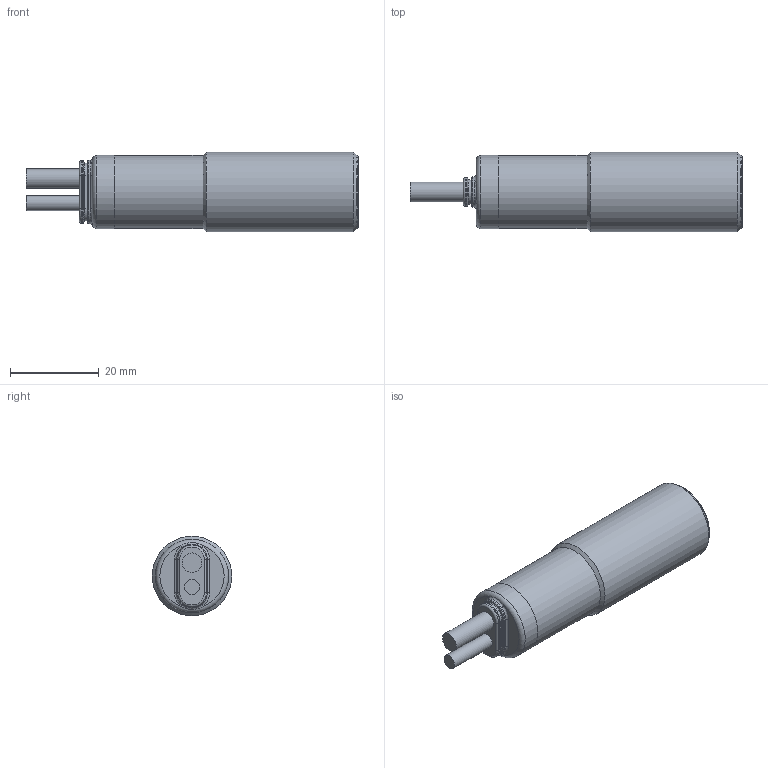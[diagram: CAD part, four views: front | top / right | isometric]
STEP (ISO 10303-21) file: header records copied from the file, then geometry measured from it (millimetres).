
FILE_DESCRIPTION((''),'2;1');
FILE_NAME('J:\Projekte\Kunststoff-Blechteile\Zeichnungen\Bibliothek Inventor\3D Solids\dbk+4\STP\dbk+4_Empf_XXX_M18.stp','2010-01-28T13:46:39',('Oliver Liedtke'),(''),'Autodesk Inventor 2009','Autodesk Inventor 2009','');
FILE_SCHEMA(('AUTOMOTIVE_DESIGN { 1 0 10303 214 1 1 1 1 }'));
Length unit declared in the file: millimetre
Products named in the file (1): dbk+4_Empf_XXX_M18
Bounding box: 75 x 18 x 18 mm (x, y, z)
Volume: 14695.6 mm3; surface area: 4118.7 mm2
Topology: 1 solids, 1 shells, 64 faces, 130 edges, 75 vertices
Faces by surface type: cylinder 22, plane 17, bspline 10, torus 9, cone 6
Full cylindrical faces by diameter (mm): 3.4 x1, 4.4 x1, 10 x1, 12 x1, 16.5 x2, 16.52 x1, 18 x1
Entity records: 2131 total; most frequent: CARTESIAN_POINT 701, DIRECTION 298, ORIENTED_EDGE 232, AXIS2_PLACEMENT_3D 131, EDGE_CURVE 116, EDGE_LOOP 84, CIRCLE 76, VERTEX_POINT 74
